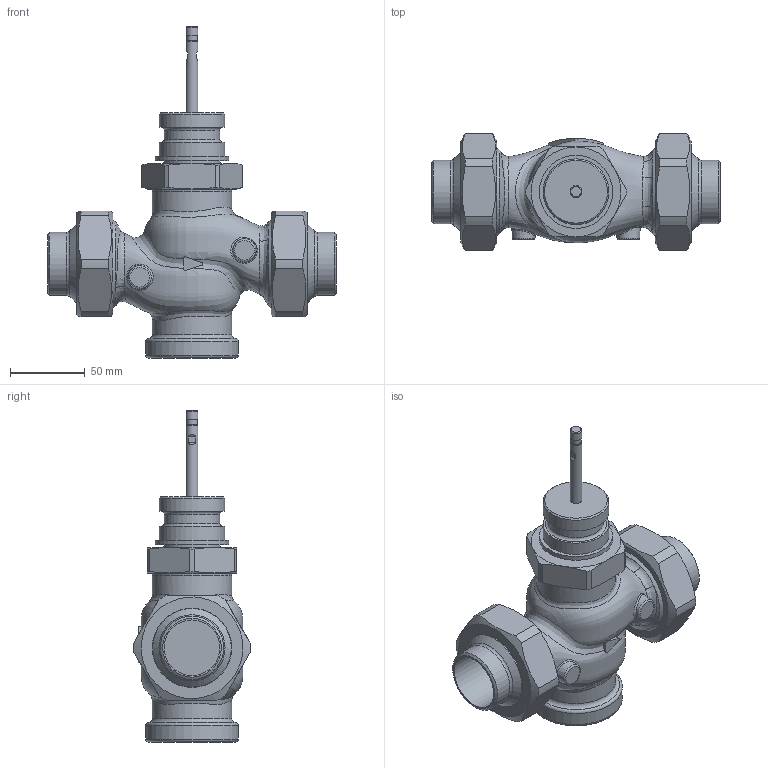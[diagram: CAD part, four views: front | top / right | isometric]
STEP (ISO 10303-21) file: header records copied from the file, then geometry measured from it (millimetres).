
FILE_DESCRIPTION(/* description */ (''),/* implementation_level */ '2;1');
FILE_NAME(/* name */ 'rv122_L_dn32_W.stp',/* time_stamp */ '2025-07-08T10:44:14+02:00',/* author */ ('Jan Novák'),/* organization */ ('LDM'),/* preprocessor_version */ 'ST-DEVELOPER v18.102',/* originating_system */ 'SIEMENS PLM Software NX2206.3001',/* authorisation */ '');
FILE_SCHEMA (('AUTOMOTIVE_DESIGN { 1 0 10303 214 3 1 1 1 }'));
Length unit declared in the file: millimetre
Products named in the file (1): rv_0763-766_rv122_L_dn32_objects
Bounding box: 193 x 77.97 x 222 mm (x, y, z)
Volume: 737637.3 mm3; surface area: 108008.2 mm2
Topology: 7 solids, 7 shells, 178 faces, 417 edges, 268 vertices
Faces by surface type: plane 60, cylinder 55, cone 37, bspline 16, torus 10
Full cylindrical faces by diameter (mm): 7 x1, 8 x2, 37 x1, 37.2 x2, 38 x1, 42.4 x2, 44 x4, 49 x1, 52.6 x2, 53 x4, 56 x2, 56.2 x2, 56.656 x2, 59.614 x2, 62 x1
Entity records: 12010 total; most frequent: CARTESIAN_POINT 8378, DIRECTION 691, ORIENTED_EDGE 618, AXIS2_PLACEMENT_3D 317, EDGE_CURVE 309, EDGE_LOOP 274, VERTEX_POINT 229, FACE_BOUND 186
